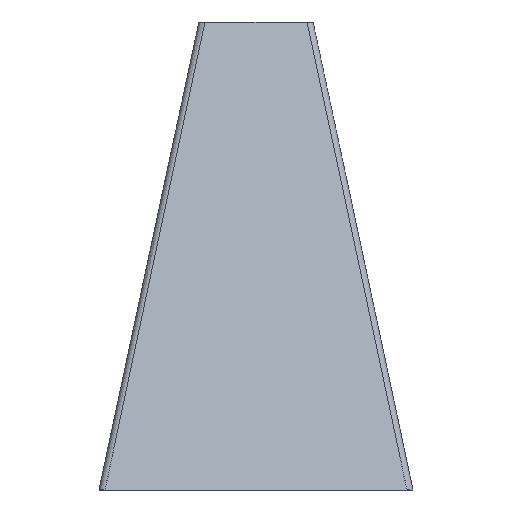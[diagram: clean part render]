
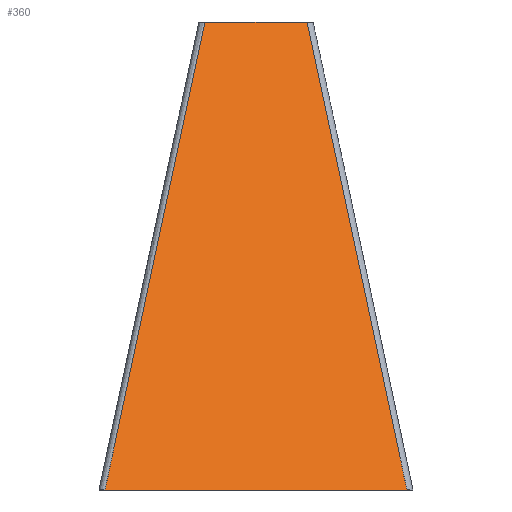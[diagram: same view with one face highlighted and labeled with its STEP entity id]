
A CAD part, left-side view. The second image highlights one B-rep face of the part: STEP entity #360.
In plain terms, the highlighted free-form (B-spline) face has degree [3, 3] with [4, 4] control points.
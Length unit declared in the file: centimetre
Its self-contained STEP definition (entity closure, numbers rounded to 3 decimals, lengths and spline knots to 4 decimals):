
#186=VERTEX_POINT('',#1085);
#189=VERTEX_POINT('',#1120);
#190=VERTEX_POINT('',#1143);
#200=VERTEX_POINT('',#1190);
#213=B_SPLINE_CURVE_WITH_KNOTS('',3,(#1121,#1122,#1123,#1124,#1125,#1126,
#1127,#1128,#1129,#1130,#1131,#1132,#1133,#1134,#1135,#1136,#1137,#1138,
#1139,#1140),.UNSPECIFIED.,.F.,.U.,(4,2,2,2,2,2,2,2,2,4),(-0.2044,
0.,4.8393,9.532,12.4649,14.298,16.131,
19.064,23.7566,28.5959),.UNSPECIFIED.);
#215=B_SPLINE_CURVE_WITH_KNOTS('',3,(#1191,#1192,#1193,#1194,#1195,#1196,
#1197,#1198,#1199,#1200,#1201,#1202,#1203,#1204,#1205,#1206,#1207,#1208,
#1209,#1210),.UNSPECIFIED.,.F.,.U.,(4,2,2,2,2,2,2,2,2,4),(-0.2044,
0.,4.8393,9.532,12.4649,14.298,16.131,
19.064,23.7566,28.5959),.UNSPECIFIED.);
#225=EDGE_CURVE('',#189,#186,#213,.T.);
#226=EDGE_CURVE('',#186,#190,#415,.T.);
#237=EDGE_CURVE('',#189,#200,#422,.T.);
#238=EDGE_CURVE('',#190,#200,#215,.F.);
#274=ORIENTED_EDGE('',*,*,#225,.F.);
#275=ORIENTED_EDGE('',*,*,#237,.T.);
#276=ORIENTED_EDGE('',*,*,#238,.F.);
#277=ORIENTED_EDGE('',*,*,#226,.F.);
#332=EDGE_LOOP('',(#274,#275,#276,#277));
#346=FACE_BOUND('',#332,.T.);
#360=ADVANCED_FACE('',(#346),#373,.T.);
#373=B_SPLINE_SURFACE_WITH_KNOTS('',3,3,((#1173,#1174,#1175,#1176),(#1177,
#1178,#1179,#1180),(#1181,#1182,#1183,#1184),(#1185,#1186,#1187,#1188)),
.UNSPECIFIED.,.F.,.F.,.U.,(4,4),(4,4),(0.,1.),(0.,1.),.UNSPECIFIED.);
#415=LINE('',#1142,#711);
#422=LINE('',#1189,#718);
#711=VECTOR('',#1594,1.);
#718=VECTOR('',#1605,1.);
#1085=CARTESIAN_POINT('',(12.25,2.2377,20.5));
#1120=CARTESIAN_POINT('',(-7.5,6.6137,0.));
#1121=CARTESIAN_POINT('',(-7.5,6.6137,0.));
#1122=CARTESIAN_POINT('',(-7.4533,6.6033,0.0485));
#1123=CARTESIAN_POINT('',(-7.4065,6.593,0.097));
#1124=CARTESIAN_POINT('',(-6.2536,6.3375,1.2937));
#1125=CARTESIAN_POINT('',(-5.1474,6.0924,2.4419));
#1126=CARTESIAN_POINT('',(-2.9686,5.6096,4.7035));
#1127=CARTESIAN_POINT('',(-1.8959,5.372,5.8169));
#1128=CARTESIAN_POINT('',(-0.1528,4.9858,7.6262));
#1129=CARTESIAN_POINT('',(0.5176,4.8372,8.3221));
#1130=CARTESIAN_POINT('',(1.6071,4.5958,9.4529));
#1131=CARTESIAN_POINT('',(2.0261,4.503,9.8878));
#1132=CARTESIAN_POINT('',(2.8641,4.3173,10.7577));
#1133=CARTESIAN_POINT('',(3.2831,4.2245,11.1926));
#1134=CARTESIAN_POINT('',(4.3726,3.9831,12.3234));
#1135=CARTESIAN_POINT('',(5.043,3.8345,13.0193));
#1136=CARTESIAN_POINT('',(6.7861,3.4483,14.8286));
#1137=CARTESIAN_POINT('',(7.8587,3.2106,15.942));
#1138=CARTESIAN_POINT('',(10.0376,2.7279,18.2036));
#1139=CARTESIAN_POINT('',(11.1438,2.4828,19.3518));
#1140=CARTESIAN_POINT('',(12.25,2.2377,20.5));
#1142=CARTESIAN_POINT('',(12.25,2.5,20.5));
#1143=CARTESIAN_POINT('',(12.25,-2.2377,20.5));
#1173=CARTESIAN_POINT('',(-7.5,6.876,0.));
#1174=CARTESIAN_POINT('',(-0.9167,5.4173,6.8333));
#1175=CARTESIAN_POINT('',(5.6667,3.9587,13.6667));
#1176=CARTESIAN_POINT('',(12.25,2.5,20.5));
#1177=CARTESIAN_POINT('',(-7.5,2.292,0.));
#1178=CARTESIAN_POINT('',(-0.9167,1.8058,6.8333));
#1179=CARTESIAN_POINT('',(5.6667,1.3196,13.6667));
#1180=CARTESIAN_POINT('',(12.25,0.8333,20.5));
#1181=CARTESIAN_POINT('',(-7.5,-2.292,0.));
#1182=CARTESIAN_POINT('',(-0.9167,-1.8058,6.8333));
#1183=CARTESIAN_POINT('',(5.6667,-1.3196,13.6667));
#1184=CARTESIAN_POINT('',(12.25,-0.8333,20.5));
#1185=CARTESIAN_POINT('',(-7.5,-6.876,0.));
#1186=CARTESIAN_POINT('',(-0.9167,-5.4173,6.8333));
#1187=CARTESIAN_POINT('',(5.6667,-3.9587,13.6667));
#1188=CARTESIAN_POINT('',(12.25,-2.5,20.5));
#1189=CARTESIAN_POINT('',(-7.5,6.876,0.));
#1190=CARTESIAN_POINT('',(-7.5,-6.6137,0.));
#1191=CARTESIAN_POINT('',(-7.5,-6.6137,0.));
#1192=CARTESIAN_POINT('',(-7.4533,-6.6033,0.0485));
#1193=CARTESIAN_POINT('',(-7.4065,-6.593,0.097));
#1194=CARTESIAN_POINT('',(-6.2536,-6.3375,1.2937));
#1195=CARTESIAN_POINT('',(-5.1474,-6.0924,2.4419));
#1196=CARTESIAN_POINT('',(-2.9686,-5.6096,4.7035));
#1197=CARTESIAN_POINT('',(-1.8959,-5.372,5.8169));
#1198=CARTESIAN_POINT('',(-0.1528,-4.9858,7.6262));
#1199=CARTESIAN_POINT('',(0.5176,-4.8372,8.3221));
#1200=CARTESIAN_POINT('',(1.6071,-4.5958,9.4529));
#1201=CARTESIAN_POINT('',(2.0261,-4.503,9.8878));
#1202=CARTESIAN_POINT('',(2.8641,-4.3173,10.7577));
#1203=CARTESIAN_POINT('',(3.2831,-4.2245,11.1926));
#1204=CARTESIAN_POINT('',(4.3726,-3.9831,12.3234));
#1205=CARTESIAN_POINT('',(5.043,-3.8345,13.0193));
#1206=CARTESIAN_POINT('',(6.7861,-3.4483,14.8286));
#1207=CARTESIAN_POINT('',(7.8587,-3.2106,15.942));
#1208=CARTESIAN_POINT('',(10.0376,-2.7279,18.2036));
#1209=CARTESIAN_POINT('',(11.1438,-2.4828,19.3518));
#1210=CARTESIAN_POINT('',(12.25,-2.2377,20.5));
#1594=DIRECTION('',(0.,-1.,0.));
#1605=DIRECTION('',(0.,-1.,0.));
